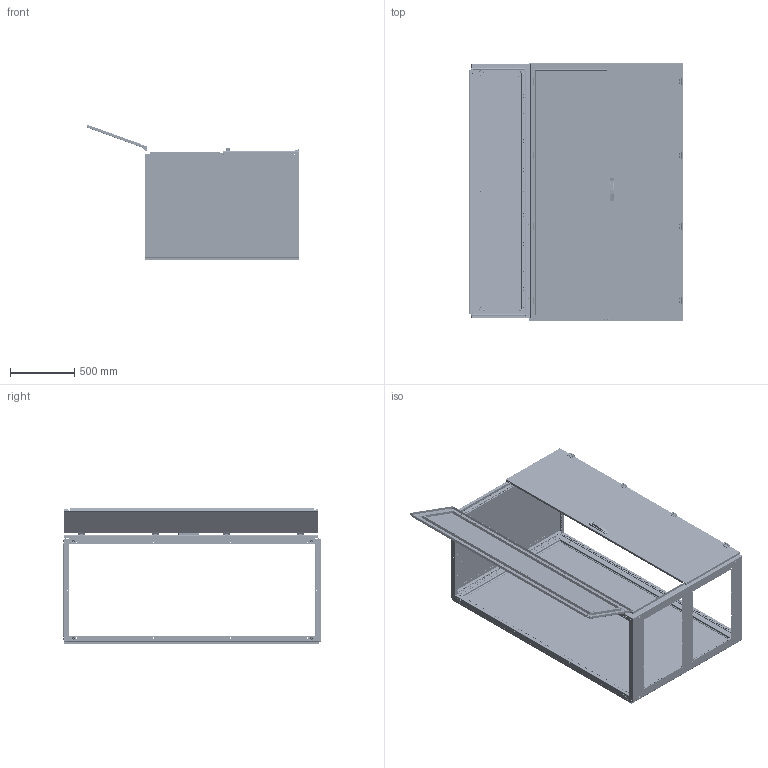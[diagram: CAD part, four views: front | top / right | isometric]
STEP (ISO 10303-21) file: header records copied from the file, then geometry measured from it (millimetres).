
FILE_DESCRIPTION (( 'STEP AP214' ), '1' );
FILE_NAME ('QA201208.step', '2011-08-11T12:27:46', ( 'Radek Veselý' ), ( 'Siemens and Partners' ), 'SwSTEP 2.0', 'SolidWorks 2006303', '' );
FILE_SCHEMA (( 'AUTOMOTIVE_DESIGN' ));
Length unit declared in the file: millimetre
Products named in the file (1): QA201208
Bounding box: 1668.78 x 2004.5 x 1062.7 mm (x, y, z)
Volume: 16609947.8 mm3; surface area: 19285585.4 mm2
Topology: 158 solids, 158 shells, 9570 faces, 26628 edges, 17343 vertices
Faces by surface type: plane 4778, cylinder 3982, cone 494, bspline 266, torus 50
Entity records: 399584 total; most frequent: CARTESIAN_POINT 71093, DIRECTION 52893, ORIENTED_EDGE 52560, EDGE_CURVE 26280, AXIS2_PLACEMENT_3D 17935, VERTEX_POINT 17343, VECTOR 17023, LINE 17023
